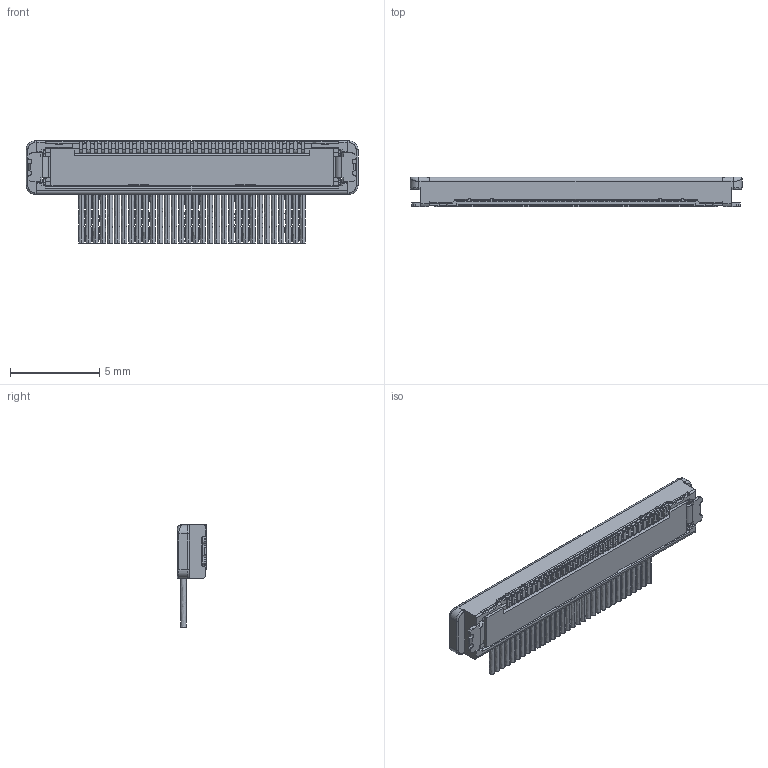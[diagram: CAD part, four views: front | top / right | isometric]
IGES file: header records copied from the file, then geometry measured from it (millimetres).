
Start section: SolidWorks IGES file using analytic representation for surfaces
Global section: file name: C:\3d-work\吉村\CAB-SS 3Dデータ 120316\3Dデータ\20374-032E-xxC+20380-032T-00C MATING IGES R1R7R2 ALL.IGS; native system: SolidWorks 2011; preprocessor: SolidWorks 2011; author: 3DCAD; date: 120317.000055; units: millimetre
Bounding box: 18.6 x 1.68 x 5.72 mm (x, y, z)
Surface area: 497.7 mm2 (no closed solid volume)
Topology: 0 solids, 0 shells, 2450 faces, 17547 edges, 17543 vertices
Faces by surface type: bspline 1659, revolution 791
